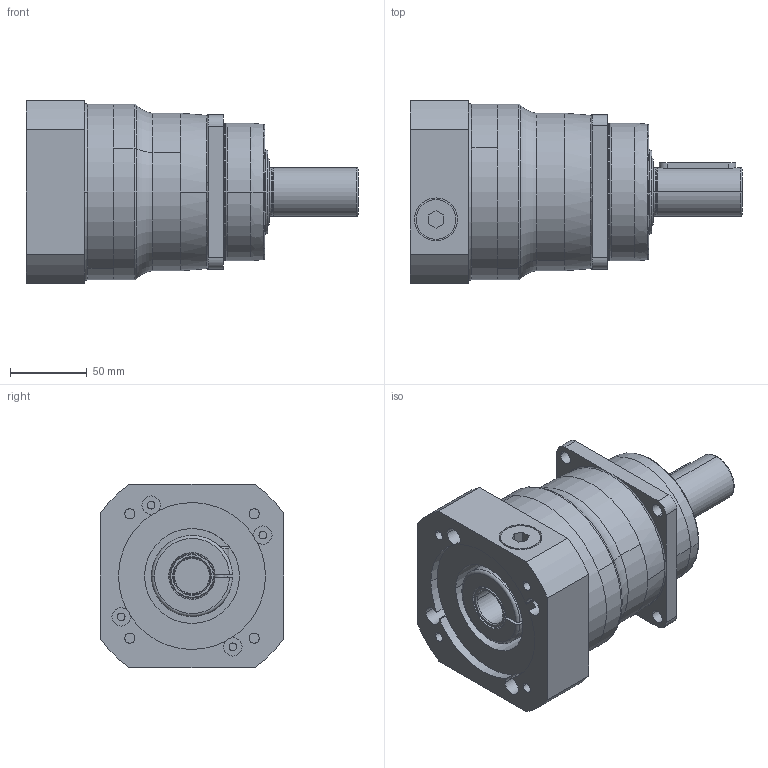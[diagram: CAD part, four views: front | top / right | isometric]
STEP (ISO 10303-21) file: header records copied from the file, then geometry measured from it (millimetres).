
FILE_DESCRIPTION(('STEP AP214'),'1');
FILE_NAME('C:/Program Files/imap/imap-wittenstein/temp/20150521_073129296.stp','2015-05-21T05:31:33',(''),(''),'XStep 1.0','it-motive AG (itm_Acis_A0016_01R.dll)',' ');
FILE_SCHEMA(('automotive_design'));
Length unit declared in the file: millimetre
Products named in the file (6): Abtrieb_SP_m080; Antrieb_MF1_m080_G; 1; Abtriebswelle_SP_m080_1; ADP; vs_3_point
Bounding box: 217 x 120 x 120 mm (x, y, z)
Volume: 1455306.5 mm3; surface area: 170927.2 mm2
Topology: 6 solids, 6 shells, 280 faces, 665 edges, 416 vertices
Faces by surface type: cylinder 113, plane 77, torus 52, cone 34, bspline 4
Entity records: 11540 total; most frequent: CARTESIAN_POINT 2387, DIRECTION 1581, ORIENTED_EDGE 1322, AXIS2_PLACEMENT_3D 670, EDGE_CURVE 661, VERTEX_POINT 416, CIRCLE 388, EDGE_LOOP 329
